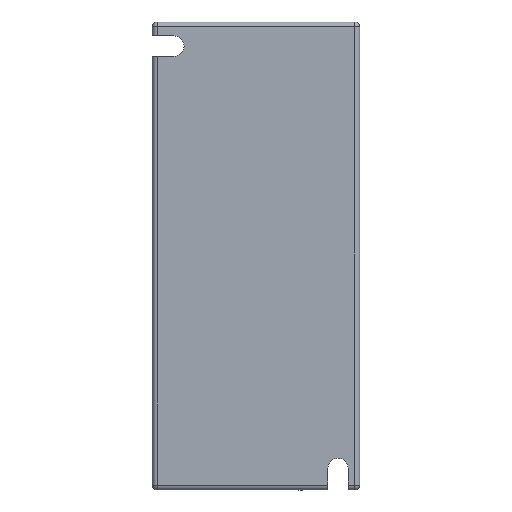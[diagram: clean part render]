
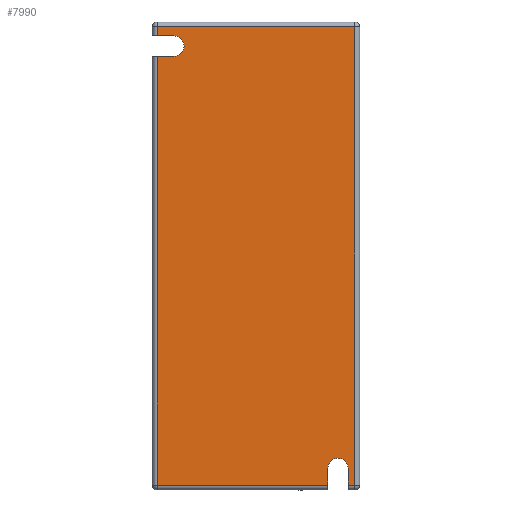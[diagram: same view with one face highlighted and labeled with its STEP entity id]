
A CAD part, front view. The second image highlights one B-rep face of the part: STEP entity #7990.
In plain terms, the highlighted planar face has unit normal (0, -1, 0).
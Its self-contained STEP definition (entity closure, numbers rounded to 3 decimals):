
#74=DIRECTION('',(-1.,0.,0.));
#75=VECTOR('',#74,3.5);
#76=CARTESIAN_POINT('',(-17.,0.,45.6));
#77=LINE('',#76,#75);
#82=DIRECTION('',(0.,0.,-1.));
#83=VECTOR('',#82,1.9);
#84=CARTESIAN_POINT('',(-20.5,0.,47.5));
#85=LINE('',#84,#83);
#89=DIRECTION('',(-1.,0.,0.));
#90=VECTOR('',#89,41.);
#91=CARTESIAN_POINT('',(20.5,0.,47.5));
#92=LINE('',#91,#90);
#96=DIRECTION('',(0.,0.,1.));
#97=VECTOR('',#96,95.);
#98=CARTESIAN_POINT('',(20.5,0.,-47.5));
#99=LINE('',#98,#97);
#103=DIRECTION('',(1.,0.,0.));
#104=VECTOR('',#103,1.4);
#105=CARTESIAN_POINT('',(19.1,0.,-47.5));
#106=LINE('',#105,#104);
#110=DIRECTION('',(0.,0.,1.));
#111=VECTOR('',#110,3.5);
#112=CARTESIAN_POINT('',(19.1,0.,-47.5));
#113=LINE('',#112,#111);
#117=CARTESIAN_POINT('',(17.,0.,-44.));
#118=DIRECTION('',(0.,1.,0.));
#119=DIRECTION('',(-1.,0.,0.));
#120=AXIS2_PLACEMENT_3D('',#117,#118,#119);
#125=DIRECTION('',(0.,0.,1.));
#126=VECTOR('',#125,3.5);
#127=CARTESIAN_POINT('',(14.9,0.,-47.5));
#128=LINE('',#127,#126);
#132=DIRECTION('',(1.,0.,0.));
#133=VECTOR('',#132,35.4);
#134=CARTESIAN_POINT('',(-20.5,0.,-47.5));
#135=LINE('',#134,#133);
#139=DIRECTION('',(0.,0.,-1.));
#140=VECTOR('',#139,88.9);
#141=CARTESIAN_POINT('',(-20.5,0.,41.4));
#142=LINE('',#141,#140);
#146=DIRECTION('',(-1.,0.,0.));
#147=VECTOR('',#146,3.5);
#148=CARTESIAN_POINT('',(-17.,0.,41.4));
#149=LINE('',#148,#147);
#153=CARTESIAN_POINT('',(-17.,0.,43.5));
#154=DIRECTION('',(0.,1.,0.));
#155=DIRECTION('',(0.,0.,1.));
#156=AXIS2_PLACEMENT_3D('',#153,#154,#155);
#6804=CARTESIAN_POINT('',(20.5,0.,47.5));
#6805=CARTESIAN_POINT('',(-20.5,0.,47.5));
#6806=VERTEX_POINT('',#6804);
#6807=VERTEX_POINT('',#6805);
#6808=CARTESIAN_POINT('',(20.5,0.,-47.5));
#6809=VERTEX_POINT('',#6808);
#6816=CARTESIAN_POINT('',(-17.,0.,45.6));
#6817=CARTESIAN_POINT('',(-20.5,0.,45.6));
#6818=VERTEX_POINT('',#6816);
#6819=VERTEX_POINT('',#6817);
#6820=CARTESIAN_POINT('',(-17.,0.,41.4));
#6821=CARTESIAN_POINT('',(-20.5,0.,41.4));
#6822=VERTEX_POINT('',#6820);
#6823=VERTEX_POINT('',#6821);
#6824=CARTESIAN_POINT('',(14.9,0.,-47.5));
#6825=CARTESIAN_POINT('',(14.9,0.,-44.));
#6826=VERTEX_POINT('',#6824);
#6827=VERTEX_POINT('',#6825);
#6828=CARTESIAN_POINT('',(19.1,0.,-44.));
#6829=VERTEX_POINT('',#6828);
#6830=CARTESIAN_POINT('',(19.1,0.,-47.5));
#6831=VERTEX_POINT('',#6830);
#6856=CARTESIAN_POINT('',(-20.5,0.,-47.5));
#6857=VERTEX_POINT('',#6856);
#7959=CARTESIAN_POINT('',(0.,0.,0.));
#7960=DIRECTION('',(0.,1.,0.));
#7961=DIRECTION('',(1.,0.,0.));
#7962=AXIS2_PLACEMENT_3D('',#7959,#7960,#7961);
#7963=PLANE('',#7962);
#7965=ORIENTED_EDGE('',*,*,#7964,.T.);
#7967=ORIENTED_EDGE('',*,*,#7966,.F.);
#7969=ORIENTED_EDGE('',*,*,#7968,.F.);
#7971=ORIENTED_EDGE('',*,*,#7970,.F.);
#7973=ORIENTED_EDGE('',*,*,#7972,.F.);
#7975=ORIENTED_EDGE('',*,*,#7974,.T.);
#7977=ORIENTED_EDGE('',*,*,#7976,.F.);
#7979=ORIENTED_EDGE('',*,*,#7978,.F.);
#7981=ORIENTED_EDGE('',*,*,#7980,.F.);
#7983=ORIENTED_EDGE('',*,*,#7982,.F.);
#7985=ORIENTED_EDGE('',*,*,#7984,.F.);
#7987=ORIENTED_EDGE('',*,*,#7986,.F.);
#7988=EDGE_LOOP('',(#7965,#7967,#7969,#7971,#7973,#7975,#7977,#7979,#7981,#7983,
#7985,#7987));
#7989=FACE_OUTER_BOUND('',#7988,.F.);
#121=CIRCLE('',#120,2.1);
#157=CIRCLE('',#156,2.1);
#7964=EDGE_CURVE('',#6818,#6819,#77,.T.);
#7966=EDGE_CURVE('',#6807,#6819,#85,.T.);
#7968=EDGE_CURVE('',#6806,#6807,#92,.T.);
#7970=EDGE_CURVE('',#6809,#6806,#99,.T.);
#7972=EDGE_CURVE('',#6831,#6809,#106,.T.);
#7974=EDGE_CURVE('',#6831,#6829,#113,.T.);
#7976=EDGE_CURVE('',#6827,#6829,#121,.T.);
#7978=EDGE_CURVE('',#6826,#6827,#128,.T.);
#7980=EDGE_CURVE('',#6857,#6826,#135,.T.);
#7982=EDGE_CURVE('',#6823,#6857,#142,.T.);
#7984=EDGE_CURVE('',#6822,#6823,#149,.T.);
#7986=EDGE_CURVE('',#6818,#6822,#157,.T.);
#7990=ADVANCED_FACE('',(#7989),#7963,.F.);
